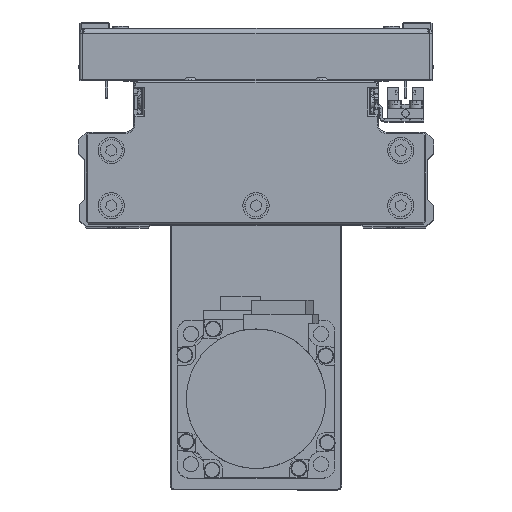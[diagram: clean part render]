
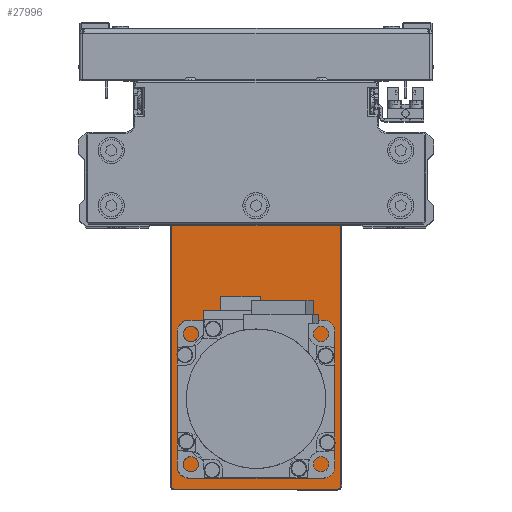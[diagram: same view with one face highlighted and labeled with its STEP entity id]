
A CAD part, top view. The second image highlights one B-rep face of the part: STEP entity #27996.
In plain terms, the highlighted planar face has unit normal (0, 0, 1) as drawn and (0, 1, 0) by its records, which use the part's own axes.
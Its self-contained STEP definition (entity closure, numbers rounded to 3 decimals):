
#210 = CARTESIAN_POINT ( 'NONE',  ( 75.992, 6., -8.551 ) ) ;
#223 = ORIENTED_EDGE ( 'NONE', *, *, #27891, .T. ) ;
#307 = AXIS2_PLACEMENT_3D ( 'NONE', #9378, #22762, #36099 ) ;
#370 = EDGE_CURVE ( 'NONE', #27226, #21862, #15297, .T. ) ;
#378 = VERTEX_POINT ( 'NONE', #33186 ) ;
#1084 = CARTESIAN_POINT ( 'NONE',  ( 83.5, 6., -32.2 ) ) ;
#1346 = ORIENTED_EDGE ( 'NONE', *, *, #29376, .F. ) ;
#1374 = CARTESIAN_POINT ( 'NONE',  ( 84.7, 6., -31. ) ) ;
#1526 = ORIENTED_EDGE ( 'NONE', *, *, #9867, .T. ) ;
#1931 = CIRCLE ( 'NONE', #26430, 10.3 ) ;
#2115 = DIRECTION ( 'NONE',  ( 0., 0., 1. ) ) ;
#2820 = FACE_OUTER_BOUND ( 'NONE', #16246, .T. ) ;
#2963 = VERTEX_POINT ( 'NONE', #40826 ) ;
#3007 = CARTESIAN_POINT ( 'NONE',  ( 0., 6., -32.2 ) ) ;
#3444 = VERTEX_POINT ( 'NONE', #31526 ) ;
#3552 = VERTEX_POINT ( 'NONE', #28885 ) ;
#3917 = ORIENTED_EDGE ( 'NONE', *, *, #39346, .F. ) ;
#4735 = CIRCLE ( 'NONE', #29222, 15. ) ;
#5676 = AXIS2_PLACEMENT_3D ( 'NONE', #42269, #12279, #25631 ) ;
#5957 = EDGE_CURVE ( 'NONE', #3552, #8477, #4735, .T. ) ;
#5982 = DIRECTION ( 'NONE',  ( 0., 0., -1. ) ) ;
#6107 = ORIENTED_EDGE ( 'NONE', *, *, #36113, .F. ) ;
#6138 = FACE_BOUND ( 'NONE', #22731, .T. ) ;
#6204 = DIRECTION ( 'NONE',  ( 0., 0., -1. ) ) ;
#6234 = DIRECTION ( 'NONE',  ( 1., 0., 0. ) ) ;
#6315 = EDGE_CURVE ( 'NONE', #8477, #3552, #14574, .T. ) ;
#6424 = DIRECTION ( 'NONE',  ( 0., 1., 0. ) ) ;
#7701 = VERTEX_POINT ( 'NONE', #29315 ) ;
#7725 = VECTOR ( 'NONE', #8926, 1000. ) ;
#8075 = VERTEX_POINT ( 'NONE', #34981 ) ;
#8450 = EDGE_LOOP ( 'NONE', ( #14664, #19455 ) ) ;
#8477 = VERTEX_POINT ( 'NONE', #35141 ) ;
#8799 = DIRECTION ( 'NONE',  ( 0., 1., 0. ) ) ;
#8916 = VECTOR ( 'NONE', #6234, 1000. ) ;
#8926 = DIRECTION ( 'NONE',  ( 0., 0., -1. ) ) ;
#9378 = CARTESIAN_POINT ( 'NONE',  ( 75.992, 6., -8.551 ) ) ;
#9867 = EDGE_CURVE ( 'NONE', #24663, #2963, #17012, .T. ) ;
#9888 = AXIS2_PLACEMENT_3D ( 'NONE', #14501, #27845, #41187 ) ;
#11401 = CARTESIAN_POINT ( 'NONE',  ( -83.5, 6., -31. ) ) ;
#11607 = LINE ( 'NONE', #24968, #33379 ) ;
#11679 = DIRECTION ( 'NONE',  ( 0., 0., 1. ) ) ;
#12075 = DIRECTION ( 'NONE',  ( 0., 0., -1. ) ) ;
#12227 = CARTESIAN_POINT ( 'NONE',  ( -83.5, 6., 32.2 ) ) ;
#12279 = DIRECTION ( 'NONE',  ( 0., 1., 0. ) ) ;
#12468 = ORIENTED_EDGE ( 'NONE', *, *, #39772, .T. ) ;
#12719 = EDGE_LOOP ( 'NONE', ( #1526, #15727 ) ) ;
#12950 = DIRECTION ( 'NONE',  ( 0., -1., 0. ) ) ;
#13010 = CIRCLE ( 'NONE', #37487, 1.525 ) ;
#13040 = AXIS2_PLACEMENT_3D ( 'NONE', #11401, #24786, #38132 ) ;
#13612 = DIRECTION ( 'NONE',  ( 0., 1., 0. ) ) ;
#14316 = ORIENTED_EDGE ( 'NONE', *, *, #15357, .T. ) ;
#14450 = EDGE_CURVE ( 'NONE', #21862, #27289, #25580, .T. ) ;
#14501 = CARTESIAN_POINT ( 'NONE',  ( -83.5, 6., 31. ) ) ;
#14572 = CARTESIAN_POINT ( 'NONE',  ( 84.7, 6., 31. ) ) ;
#14574 = CIRCLE ( 'NONE', #39020, 15. ) ;
#14664 = ORIENTED_EDGE ( 'NONE', *, *, #5957, .F. ) ;
#15297 = CIRCLE ( 'NONE', #38283, 1.2 ) ;
#15357 = EDGE_CURVE ( 'NONE', #3444, #31686, #11607, .T. ) ;
#15727 = ORIENTED_EDGE ( 'NONE', *, *, #32894, .T. ) ;
#16219 = FACE_BOUND ( 'NONE', #8450, .T. ) ;
#16246 = EDGE_LOOP ( 'NONE', ( #223, #34415, #12468, #14316, #20413, #30828, #38515, #22185 ) ) ;
#16415 = DIRECTION ( 'NONE',  ( -1., 0., 0. ) ) ;
#16725 = EDGE_CURVE ( 'NONE', #378, #39801, #30566, .T. ) ;
#17012 = CIRCLE ( 'NONE', #41470, 10.3 ) ;
#17281 = AXIS2_PLACEMENT_3D ( 'NONE', #210, #13612, #26945 ) ;
#18599 = ORIENTED_EDGE ( 'NONE', *, *, #16725, .F. ) ;
#18804 = CARTESIAN_POINT ( 'NONE',  ( -50.5, 6., 0. ) ) ;
#19455 = ORIENTED_EDGE ( 'NONE', *, *, #6315, .F. ) ;
#19521 = FACE_BOUND ( 'NONE', #19840, .T. ) ;
#19826 = DIRECTION ( 'NONE',  ( 0., 0., -1. ) ) ;
#19840 = EDGE_LOOP ( 'NONE', ( #18599, #6107 ) ) ;
#19896 = VECTOR ( 'NONE', #16415, 1000. ) ;
#20413 = ORIENTED_EDGE ( 'NONE', *, *, #29245, .T. ) ;
#21862 = VERTEX_POINT ( 'NONE', #14572 ) ;
#22174 = DIRECTION ( 'NONE',  ( 0., 0., 1. ) ) ;
#22185 = ORIENTED_EDGE ( 'NONE', *, *, #14450, .T. ) ;
#22652 = CARTESIAN_POINT ( 'NONE',  ( 52.5, 6., 0. ) ) ;
#22731 = EDGE_LOOP ( 'NONE', ( #1346, #3917 ) ) ;
#22762 = DIRECTION ( 'NONE',  ( 0., 1., 0. ) ) ;
#22888 = CARTESIAN_POINT ( 'NONE',  ( 52.5, 6., 0. ) ) ;
#22920 = LINE ( 'NONE', #36267, #8916 ) ;
#22961 = EDGE_CURVE ( 'NONE', #42909, #8075, #33037, .T. ) ;
#23099 = AXIS2_PLACEMENT_3D ( 'NONE', #28723, #42049, #12075 ) ;
#24603 = CIRCLE ( 'NONE', #5676, 1.525 ) ;
#24663 = VERTEX_POINT ( 'NONE', #27273 ) ;
#24786 = DIRECTION ( 'NONE',  ( 0., 1., 0. ) ) ;
#24968 = CARTESIAN_POINT ( 'NONE',  ( -84.7, 6., 0. ) ) ;
#25580 = LINE ( 'NONE', #38931, #7725 ) ;
#25631 = DIRECTION ( 'NONE',  ( 0., 0., 1. ) ) ;
#26300 = DIRECTION ( 'NONE',  ( 0., 0., -1. ) ) ;
#26430 = AXIS2_PLACEMENT_3D ( 'NONE', #22652, #36000, #5982 ) ;
#26945 = DIRECTION ( 'NONE',  ( 0., 0., 1. ) ) ;
#27226 = VERTEX_POINT ( 'NONE', #27697 ) ;
#27273 = CARTESIAN_POINT ( 'NONE',  ( 52.5, 6., 10.3 ) ) ;
#27289 = VERTEX_POINT ( 'NONE', #1374 ) ;
#27697 = CARTESIAN_POINT ( 'NONE',  ( 83.5, 6., 32.2 ) ) ;
#27845 = DIRECTION ( 'NONE',  ( 0., 1., 0. ) ) ;
#27891 = EDGE_CURVE ( 'NONE', #27289, #42909, #41953, .T. ) ;
#27996 = ADVANCED_FACE ( 'NONE', ( #6138, #19521, #32862, #2820, #16219 ), #29590, .F. ) ;
#28004 = CARTESIAN_POINT ( 'NONE',  ( 61.051, 6., 21.967 ) ) ;
#28333 = CARTESIAN_POINT ( 'NONE',  ( 61.051, 6., 23.492 ) ) ;
#28723 = CARTESIAN_POINT ( 'NONE',  ( 83.5, 6., -31. ) ) ;
#28774 = CIRCLE ( 'NONE', #9888, 1.2 ) ;
#28885 = CARTESIAN_POINT ( 'NONE',  ( -50.5, 6., 15. ) ) ;
#29222 = AXIS2_PLACEMENT_3D ( 'NONE', #38809, #8799, #22174 ) ;
#29245 = EDGE_CURVE ( 'NONE', #31686, #29891, #28774, .T. ) ;
#29315 = CARTESIAN_POINT ( 'NONE',  ( 61.051, 6., 25.017 ) ) ;
#29376 = EDGE_CURVE ( 'NONE', #7701, #29724, #24603, .T. ) ;
#29590 = PLANE ( 'NONE',  #32182 ) ;
#29724 = VERTEX_POINT ( 'NONE', #28004 ) ;
#29891 = VERTEX_POINT ( 'NONE', #12227 ) ;
#30566 = CIRCLE ( 'NONE', #17281, 1.525 ) ;
#30828 = ORIENTED_EDGE ( 'NONE', *, *, #32520, .T. ) ;
#31526 = CARTESIAN_POINT ( 'NONE',  ( -84.7, 6., -31. ) ) ;
#31686 = VERTEX_POINT ( 'NONE', #33513 ) ;
#31782 = CARTESIAN_POINT ( 'NONE',  ( 75.992, 6., -10.076 ) ) ;
#31938 = CIRCLE ( 'NONE', #13040, 1.2 ) ;
#32160 = DIRECTION ( 'NONE',  ( 0., 1., 0. ) ) ;
#32182 = AXIS2_PLACEMENT_3D ( 'NONE', #42930, #12950, #26300 ) ;
#32520 = EDGE_CURVE ( 'NONE', #29891, #27226, #22920, .T. ) ;
#32862 = FACE_BOUND ( 'NONE', #12719, .T. ) ;
#32894 = EDGE_CURVE ( 'NONE', #2963, #24663, #1931, .T. ) ;
#33037 = LINE ( 'NONE', #3007, #19896 ) ;
#33186 = CARTESIAN_POINT ( 'NONE',  ( 75.992, 6., -7.026 ) ) ;
#33379 = VECTOR ( 'NONE', #38316, 1000. ) ;
#33513 = CARTESIAN_POINT ( 'NONE',  ( -84.7, 6., 31. ) ) ;
#34415 = ORIENTED_EDGE ( 'NONE', *, *, #22961, .T. ) ;
#34981 = CARTESIAN_POINT ( 'NONE',  ( -83.5, 6., -32.2 ) ) ;
#35141 = CARTESIAN_POINT ( 'NONE',  ( -50.5, 6., -15. ) ) ;
#36000 = DIRECTION ( 'NONE',  ( 0., -1., 0. ) ) ;
#36099 = DIRECTION ( 'NONE',  ( 0., 0., 1. ) ) ;
#36113 = EDGE_CURVE ( 'NONE', #39801, #378, #38101, .T. ) ;
#36237 = DIRECTION ( 'NONE',  ( 0., -1., 0. ) ) ;
#36267 = CARTESIAN_POINT ( 'NONE',  ( 0., 6., 32.2 ) ) ;
#36444 = CARTESIAN_POINT ( 'NONE',  ( 83.5, 6., 31. ) ) ;
#37487 = AXIS2_PLACEMENT_3D ( 'NONE', #28333, #41669, #11679 ) ;
#38101 = CIRCLE ( 'NONE', #307, 1.525 ) ;
#38132 = DIRECTION ( 'NONE',  ( 0., 0., -1. ) ) ;
#38283 = AXIS2_PLACEMENT_3D ( 'NONE', #36444, #6424, #19826 ) ;
#38316 = DIRECTION ( 'NONE',  ( 0., 0., 1. ) ) ;
#38515 = ORIENTED_EDGE ( 'NONE', *, *, #370, .T. ) ;
#38809 = CARTESIAN_POINT ( 'NONE',  ( -50.5, 6., 0. ) ) ;
#38931 = CARTESIAN_POINT ( 'NONE',  ( 84.7, 6., 0. ) ) ;
#39020 = AXIS2_PLACEMENT_3D ( 'NONE', #18804, #32160, #2115 ) ;
#39346 = EDGE_CURVE ( 'NONE', #29724, #7701, #13010, .T. ) ;
#39772 = EDGE_CURVE ( 'NONE', #8075, #3444, #31938, .T. ) ;
#39801 = VERTEX_POINT ( 'NONE', #31782 ) ;
#40826 = CARTESIAN_POINT ( 'NONE',  ( 52.5, 6., -10.3 ) ) ;
#41187 = DIRECTION ( 'NONE',  ( 0., 0., -1. ) ) ;
#41470 = AXIS2_PLACEMENT_3D ( 'NONE', #22888, #36237, #6204 ) ;
#41669 = DIRECTION ( 'NONE',  ( 0., 1., 0. ) ) ;
#41953 = CIRCLE ( 'NONE', #23099, 1.2 ) ;
#42049 = DIRECTION ( 'NONE',  ( 0., 1., 0. ) ) ;
#42269 = CARTESIAN_POINT ( 'NONE',  ( 61.051, 6., 23.492 ) ) ;
#42909 = VERTEX_POINT ( 'NONE', #1084 ) ;
#42930 = CARTESIAN_POINT ( 'NONE',  ( 0., 6., 0. ) ) ;
